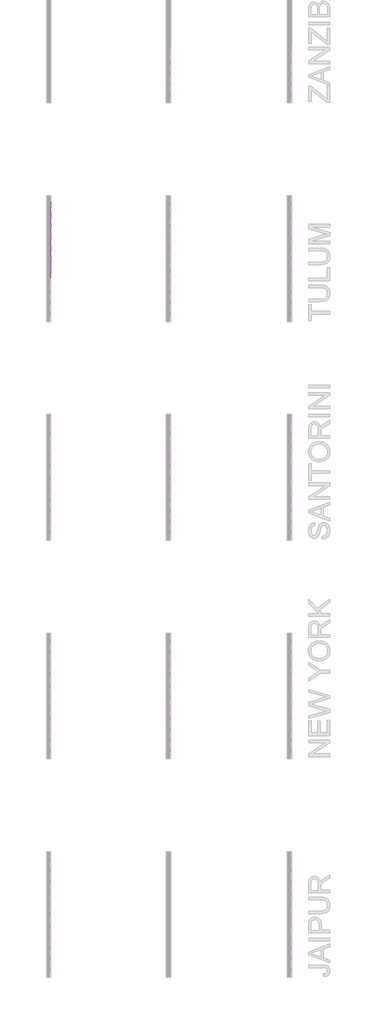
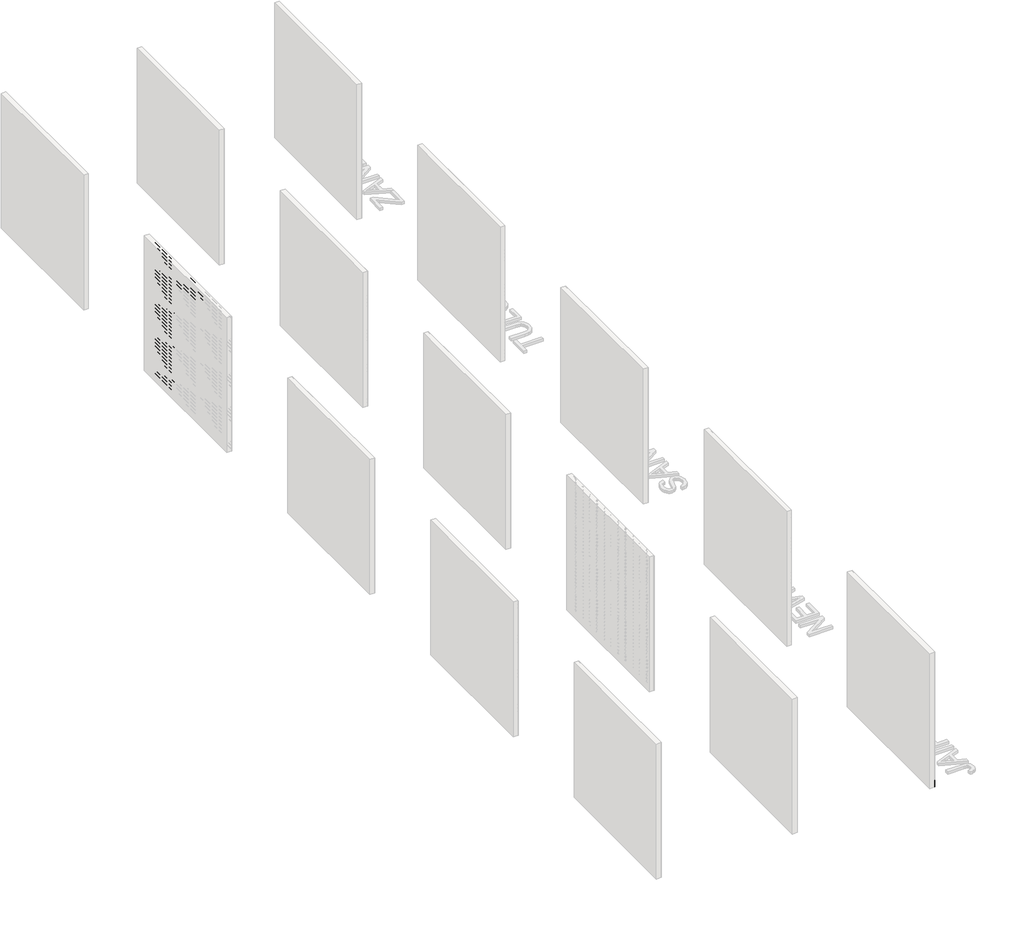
# One storey, part 14 of 45: 147 proxies.
"""IFC4 building model written with IfcOpenShell, lengths in millimetres."""

from ifc_helpers import new_model, si_unit, origin, place, context, project, spatial, transform, mapped, element, save
from components import generic_models_ab0f2c30, generic_models_c1e678a0

model = new_model("IFC4")

# Units and contexts
model_context = context("Model", 3, world=origin())
ifc_project = project(units=[si_unit("LENGTHUNIT", "METRE", prefix="MILLI")], contexts=[model_context])

# Site, building, storey
site = spatial("IfcSite", under=ifc_project)
building = spatial("IfcBuilding", under=site)
storey = spatial("IfcBuildingStorey", under=building, Name="PORTOBELLO - SHOWROOM", Elevation=0.0)

# Proxies
placement = place(None, origin())
generic_models_shape = generic_models_ab0f2c30(model_context)
element("IfcBuildingElementProxy", 1, Name="PBSHOP - HORIZONTES JAIPUR 6,5X23 : JAIPUR", ObjectType="PBSHOP - HORIZONTES JAIPUR 6,5X23 : JAIPUR", at=placement, inside=storey, context=model_context, shape_type="MappedRepresentation", body=[
    mapped(generic_models_shape, transform((69111.8826867, 1103.9760255, 34.5), x_axis=(0.0, 0.0, 1.0), y_axis=(0.0, -1.0, 0.0), z_axis=(1.0, 0.0, 0.0))),
])
element("IfcBuildingElementProxy", 2, Name="PBSHOP - HORIZONTES JAIPUR 6,5X23 : JAIPUR", ObjectType="PBSHOP - HORIZONTES JAIPUR 6,5X23 : JAIPUR", at=placement, inside=storey, context=model_context, shape_type="MappedRepresentation", body=[
    mapped(generic_models_shape, transform((69111.8826867, 1337.9760255, 34.5), x_axis=(0.0, 0.0, 1.0), y_axis=(0.0, -1.0, 0.0), z_axis=(1.0, 0.0, 0.0))),
])
element("IfcBuildingElementProxy", 3, Name="PBSHOP - HORIZONTES JAIPUR 6,5X23 : JAIPUR", ObjectType="PBSHOP - HORIZONTES JAIPUR 6,5X23 : JAIPUR", at=placement, inside=storey, context=model_context, shape_type="MappedRepresentation", body=[
    mapped(generic_models_shape, transform((69111.8826867, 1571.9760255, 34.5), x_axis=(0.0, 0.0, 1.0), y_axis=(0.0, -1.0, 0.0), z_axis=(1.0, 0.0, 0.0))),
])
element("IfcBuildingElementProxy", 4, Name="PBSHOP - HORIZONTES JAIPUR 6,5X23 : JAIPUR", ObjectType="PBSHOP - HORIZONTES JAIPUR 6,5X23 : JAIPUR", at=placement, inside=storey, context=model_context, shape_type="MappedRepresentation", body=[
    mapped(generic_models_shape, transform((69111.8826867, 1805.9760255, 34.5), x_axis=(0.0, 0.0, 1.0), y_axis=(0.0, -1.0, 0.0), z_axis=(1.0, 0.0, 0.0))),
])
element("IfcBuildingElementProxy", 5, Name="PBSHOP - HORIZONTES JAIPUR 6,5X23 : JAIPUR", ObjectType="PBSHOP - HORIZONTES JAIPUR 6,5X23 : JAIPUR", at=placement, inside=storey, context=model_context, shape_type="MappedRepresentation", body=[
    mapped(generic_models_shape, transform((69111.8826867, 1103.9760255, 103.5), x_axis=(0.0, 0.0, 1.0), y_axis=(0.0, -1.0, 0.0), z_axis=(1.0, 0.0, 0.0))),
])
generic_models_2_shape = generic_models_c1e678a0(model_context)
element("IfcBuildingElementProxy", 6, Name="PBSHOP - HORIZONTES TULUM 6,5X23 : TULUM FENDA", ObjectType="PBSHOP - HORIZONTES TULUM 6,5X23 : TULUM FENDA", at=placement, inside=storey, context=model_context, shape_type="MappedRepresentation", body=[
    mapped(generic_models_2_shape, transform((63939.1036979, 17058.0588567, 34.5), x_axis=(0.0, 0.0, 1.0), y_axis=(0.0, -1.0, 0.0), z_axis=(1.0, 0.0, 0.0))),
])
element("IfcBuildingElementProxy", 7, Name="PBSHOP - HORIZONTES TULUM 6,5X23 : TULUM FENDA", ObjectType="PBSHOP - HORIZONTES TULUM 6,5X23 : TULUM FENDA", at=placement, inside=storey, context=model_context, shape_type="MappedRepresentation", body=[
    mapped(generic_models_2_shape, transform((63939.1036979, 17292.0588567, 34.5), x_axis=(0.0, 0.0, 1.0), y_axis=(0.0, -1.0, 0.0), z_axis=(1.0, 0.0, 0.0))),
])
element("IfcBuildingElementProxy", 8, Name="PBSHOP - HORIZONTES TULUM 6,5X23 : TULUM FENDA", ObjectType="PBSHOP - HORIZONTES TULUM 6,5X23 : TULUM FENDA", at=placement, inside=storey, context=model_context, shape_type="MappedRepresentation", body=[
    mapped(generic_models_2_shape, transform((63939.1036979, 17526.0588567, 34.5), x_axis=(0.0, 0.0, 1.0), y_axis=(0.0, -1.0, 0.0), z_axis=(1.0, 0.0, 0.0))),
])
element("IfcBuildingElementProxy", 9, Name="PBSHOP - HORIZONTES TULUM 6,5X23 : TULUM FENDA", ObjectType="PBSHOP - HORIZONTES TULUM 6,5X23 : TULUM FENDA", at=placement, inside=storey, context=model_context, shape_type="MappedRepresentation", body=[
    mapped(generic_models_2_shape, transform((63939.1036979, 17058.0588567, 103.5), x_axis=(0.0, 0.0, 1.0), y_axis=(0.0, -1.0, 0.0), z_axis=(1.0, 0.0, 0.0))),
])
element("IfcBuildingElementProxy", 10, Name="PBSHOP - HORIZONTES TULUM 6,5X23 : TULUM FENDA", ObjectType="PBSHOP - HORIZONTES TULUM 6,5X23 : TULUM FENDA", at=placement, inside=storey, context=model_context, shape_type="MappedRepresentation", body=[
    mapped(generic_models_2_shape, transform((63939.1036979, 17292.0588567, 103.5), x_axis=(0.0, 0.0, 1.0), y_axis=(0.0, -1.0, 0.0), z_axis=(1.0, 0.0, 0.0))),
])
element("IfcBuildingElementProxy", 11, Name="PBSHOP - HORIZONTES TULUM 6,5X23 : TULUM FENDA", ObjectType="PBSHOP - HORIZONTES TULUM 6,5X23 : TULUM FENDA", at=placement, inside=storey, context=model_context, shape_type="MappedRepresentation", body=[
    mapped(generic_models_2_shape, transform((63939.1036979, 17526.0588567, 103.5), x_axis=(0.0, 0.0, 1.0), y_axis=(0.0, -1.0, 0.0), z_axis=(1.0, 0.0, 0.0))),
])
element("IfcBuildingElementProxy", 12, Name="PBSHOP - HORIZONTES TULUM 6,5X23 : TULUM FENDA", ObjectType="PBSHOP - HORIZONTES TULUM 6,5X23 : TULUM FENDA", at=placement, inside=storey, context=model_context, shape_type="MappedRepresentation", body=[
    mapped(generic_models_2_shape, transform((63939.1036979, 17058.0588567, 172.5), x_axis=(0.0, 0.0, 1.0), y_axis=(0.0, -1.0, 0.0), z_axis=(1.0, 0.0, 0.0))),
])
element("IfcBuildingElementProxy", 13, Name="PBSHOP - HORIZONTES TULUM 6,5X23 : TULUM FENDA", ObjectType="PBSHOP - HORIZONTES TULUM 6,5X23 : TULUM FENDA", at=placement, inside=storey, context=model_context, shape_type="MappedRepresentation", body=[
    mapped(generic_models_2_shape, transform((63939.1036979, 17292.0588567, 172.5), x_axis=(0.0, 0.0, 1.0), y_axis=(0.0, -1.0, 0.0), z_axis=(1.0, 0.0, 0.0))),
])
element("IfcBuildingElementProxy", 14, Name="PBSHOP - HORIZONTES TULUM 6,5X23 : TULUM FENDA", ObjectType="PBSHOP - HORIZONTES TULUM 6,5X23 : TULUM FENDA", at=placement, inside=storey, context=model_context, shape_type="MappedRepresentation", body=[
    mapped(generic_models_2_shape, transform((63939.1036979, 17526.0588567, 172.5), x_axis=(0.0, 0.0, 1.0), y_axis=(0.0, -1.0, 0.0), z_axis=(1.0, 0.0, 0.0))),
])
element("IfcBuildingElementProxy", 15, Name="PBSHOP - HORIZONTES TULUM 6,5X23 : TULUM FENDA", ObjectType="PBSHOP - HORIZONTES TULUM 6,5X23 : TULUM FENDA", at=placement, inside=storey, context=model_context, shape_type="MappedRepresentation", body=[
    mapped(generic_models_2_shape, transform((63939.1036979, 17058.0588567, 241.5), x_axis=(0.0, 0.0, 1.0), y_axis=(0.0, -1.0, 0.0), z_axis=(1.0, 0.0, 0.0))),
])
element("IfcBuildingElementProxy", 16, Name="PBSHOP - HORIZONTES TULUM 6,5X23 : TULUM FENDA", ObjectType="PBSHOP - HORIZONTES TULUM 6,5X23 : TULUM FENDA", at=placement, inside=storey, context=model_context, shape_type="MappedRepresentation", body=[
    mapped(generic_models_2_shape, transform((63939.1036979, 17292.0588567, 241.5), x_axis=(0.0, 0.0, 1.0), y_axis=(0.0, -1.0, 0.0), z_axis=(1.0, 0.0, 0.0))),
])
element("IfcBuildingElementProxy", 17, Name="PBSHOP - HORIZONTES TULUM 6,5X23 : TULUM FENDA", ObjectType="PBSHOP - HORIZONTES TULUM 6,5X23 : TULUM FENDA", at=placement, inside=storey, context=model_context, shape_type="MappedRepresentation", body=[
    mapped(generic_models_2_shape, transform((63939.1036979, 17526.0588567, 241.5), x_axis=(0.0, 0.0, 1.0), y_axis=(0.0, -1.0, 0.0), z_axis=(1.0, 0.0, 0.0))),
])
element("IfcBuildingElementProxy", 18, Name="PBSHOP - HORIZONTES TULUM 6,5X23 : TULUM FENDA", ObjectType="PBSHOP - HORIZONTES TULUM 6,5X23 : TULUM FENDA", at=placement, inside=storey, context=model_context, shape_type="MappedRepresentation", body=[
    mapped(generic_models_2_shape, transform((63939.1036979, 17058.0588567, 310.5), x_axis=(0.0, 0.0, 1.0), y_axis=(0.0, -1.0, 0.0), z_axis=(1.0, 0.0, 0.0))),
])
element("IfcBuildingElementProxy", 19, Name="PBSHOP - HORIZONTES TULUM 6,5X23 : TULUM FENDA", ObjectType="PBSHOP - HORIZONTES TULUM 6,5X23 : TULUM FENDA", at=placement, inside=storey, context=model_context, shape_type="MappedRepresentation", body=[
    mapped(generic_models_2_shape, transform((63939.1036979, 17292.0588567, 310.5), x_axis=(0.0, 0.0, 1.0), y_axis=(0.0, -1.0, 0.0), z_axis=(1.0, 0.0, 0.0))),
])
element("IfcBuildingElementProxy", 20, Name="PBSHOP - HORIZONTES TULUM 6,5X23 : TULUM FENDA", ObjectType="PBSHOP - HORIZONTES TULUM 6,5X23 : TULUM FENDA", at=placement, inside=storey, context=model_context, shape_type="MappedRepresentation", body=[
    mapped(generic_models_2_shape, transform((63939.1036979, 17526.0588567, 310.5), x_axis=(0.0, 0.0, 1.0), y_axis=(0.0, -1.0, 0.0), z_axis=(1.0, 0.0, 0.0))),
])
element("IfcBuildingElementProxy", 21, Name="PBSHOP - HORIZONTES TULUM 6,5X23 : TULUM FENDA", ObjectType="PBSHOP - HORIZONTES TULUM 6,5X23 : TULUM FENDA", at=placement, inside=storey, context=model_context, shape_type="MappedRepresentation", body=[
    mapped(generic_models_2_shape, transform((63939.1036979, 17058.0588567, 379.5), x_axis=(0.0, 0.0, 1.0), y_axis=(0.0, -1.0, 0.0), z_axis=(1.0, 0.0, 0.0))),
])
element("IfcBuildingElementProxy", 22, Name="PBSHOP - HORIZONTES TULUM 6,5X23 : TULUM FENDA", ObjectType="PBSHOP - HORIZONTES TULUM 6,5X23 : TULUM FENDA", at=placement, inside=storey, context=model_context, shape_type="MappedRepresentation", body=[
    mapped(generic_models_2_shape, transform((63939.1036979, 17292.0588567, 379.5), x_axis=(0.0, 0.0, 1.0), y_axis=(0.0, -1.0, 0.0), z_axis=(1.0, 0.0, 0.0))),
])
element("IfcBuildingElementProxy", 23, Name="PBSHOP - HORIZONTES TULUM 6,5X23 : TULUM FENDA", ObjectType="PBSHOP - HORIZONTES TULUM 6,5X23 : TULUM FENDA", at=placement, inside=storey, context=model_context, shape_type="MappedRepresentation", body=[
    mapped(generic_models_2_shape, transform((63939.1036979, 17526.0588567, 379.5), x_axis=(0.0, 0.0, 1.0), y_axis=(0.0, -1.0, 0.0), z_axis=(1.0, 0.0, 0.0))),
])
element("IfcBuildingElementProxy", 24, Name="PBSHOP - HORIZONTES TULUM 6,5X23 : TULUM FENDA", ObjectType="PBSHOP - HORIZONTES TULUM 6,5X23 : TULUM FENDA", at=placement, inside=storey, context=model_context, shape_type="MappedRepresentation", body=[
    mapped(generic_models_2_shape, transform((63939.1036979, 17058.0588567, 448.5), x_axis=(0.0, 0.0, 1.0), y_axis=(0.0, -1.0, 0.0), z_axis=(1.0, 0.0, 0.0))),
])
element("IfcBuildingElementProxy", 25, Name="PBSHOP - HORIZONTES TULUM 6,5X23 : TULUM FENDA", ObjectType="PBSHOP - HORIZONTES TULUM 6,5X23 : TULUM FENDA", at=placement, inside=storey, context=model_context, shape_type="MappedRepresentation", body=[
    mapped(generic_models_2_shape, transform((63939.1036979, 17292.0588567, 448.5), x_axis=(0.0, 0.0, 1.0), y_axis=(0.0, -1.0, 0.0), z_axis=(1.0, 0.0, 0.0))),
])
element("IfcBuildingElementProxy", 26, Name="PBSHOP - HORIZONTES TULUM 6,5X23 : TULUM FENDA", ObjectType="PBSHOP - HORIZONTES TULUM 6,5X23 : TULUM FENDA", at=placement, inside=storey, context=model_context, shape_type="MappedRepresentation", body=[
    mapped(generic_models_2_shape, transform((63939.1036979, 17526.0588567, 448.5), x_axis=(0.0, 0.0, 1.0), y_axis=(0.0, -1.0, 0.0), z_axis=(1.0, 0.0, 0.0))),
])
element("IfcBuildingElementProxy", 27, Name="PBSHOP - HORIZONTES TULUM 6,5X23 : TULUM FENDA", ObjectType="PBSHOP - HORIZONTES TULUM 6,5X23 : TULUM FENDA", at=placement, inside=storey, context=model_context, shape_type="MappedRepresentation", body=[
    mapped(generic_models_2_shape, transform((63939.1036979, 17058.0588567, 517.5), x_axis=(0.0, 0.0, 1.0), y_axis=(0.0, -1.0, 0.0), z_axis=(1.0, 0.0, 0.0))),
])
element("IfcBuildingElementProxy", 28, Name="PBSHOP - HORIZONTES TULUM 6,5X23 : TULUM FENDA", ObjectType="PBSHOP - HORIZONTES TULUM 6,5X23 : TULUM FENDA", at=placement, inside=storey, context=model_context, shape_type="MappedRepresentation", body=[
    mapped(generic_models_2_shape, transform((63939.1036979, 17292.0588567, 517.5), x_axis=(0.0, 0.0, 1.0), y_axis=(0.0, -1.0, 0.0), z_axis=(1.0, 0.0, 0.0))),
])
element("IfcBuildingElementProxy", 29, Name="PBSHOP - HORIZONTES TULUM 6,5X23 : TULUM FENDA", ObjectType="PBSHOP - HORIZONTES TULUM 6,5X23 : TULUM FENDA", at=placement, inside=storey, context=model_context, shape_type="MappedRepresentation", body=[
    mapped(generic_models_2_shape, transform((63939.1036979, 17526.0588567, 517.5), x_axis=(0.0, 0.0, 1.0), y_axis=(0.0, -1.0, 0.0), z_axis=(1.0, 0.0, 0.0))),
])
element("IfcBuildingElementProxy", 30, Name="PBSHOP - HORIZONTES TULUM 6,5X23 : TULUM FENDA", ObjectType="PBSHOP - HORIZONTES TULUM 6,5X23 : TULUM FENDA", at=placement, inside=storey, context=model_context, shape_type="MappedRepresentation", body=[
    mapped(generic_models_2_shape, transform((63939.1036979, 17058.0588567, 586.5), x_axis=(0.0, 0.0, 1.0), y_axis=(0.0, -1.0, 0.0), z_axis=(1.0, 0.0, 0.0))),
])
element("IfcBuildingElementProxy", 31, Name="PBSHOP - HORIZONTES TULUM 6,5X23 : TULUM FENDA", ObjectType="PBSHOP - HORIZONTES TULUM 6,5X23 : TULUM FENDA", at=placement, inside=storey, context=model_context, shape_type="MappedRepresentation", body=[
    mapped(generic_models_2_shape, transform((63939.1036979, 17292.0588567, 586.5), x_axis=(0.0, 0.0, 1.0), y_axis=(0.0, -1.0, 0.0), z_axis=(1.0, 0.0, 0.0))),
])
element("IfcBuildingElementProxy", 32, Name="PBSHOP - HORIZONTES TULUM 6,5X23 : TULUM FENDA", ObjectType="PBSHOP - HORIZONTES TULUM 6,5X23 : TULUM FENDA", at=placement, inside=storey, context=model_context, shape_type="MappedRepresentation", body=[
    mapped(generic_models_2_shape, transform((63939.1036979, 17526.0588567, 586.5), x_axis=(0.0, 0.0, 1.0), y_axis=(0.0, -1.0, 0.0), z_axis=(1.0, 0.0, 0.0))),
])
element("IfcBuildingElementProxy", 33, Name="PBSHOP - HORIZONTES TULUM 6,5X23 : TULUM FENDA", ObjectType="PBSHOP - HORIZONTES TULUM 6,5X23 : TULUM FENDA", at=placement, inside=storey, context=model_context, shape_type="MappedRepresentation", body=[
    mapped(generic_models_2_shape, transform((63939.1036979, 17058.0588567, 655.5), x_axis=(0.0, 0.0, 1.0), y_axis=(0.0, -1.0, 0.0), z_axis=(1.0, 0.0, 0.0))),
])
element("IfcBuildingElementProxy", 34, Name="PBSHOP - HORIZONTES TULUM 6,5X23 : TULUM FENDA", ObjectType="PBSHOP - HORIZONTES TULUM 6,5X23 : TULUM FENDA", at=placement, inside=storey, context=model_context, shape_type="MappedRepresentation", body=[
    mapped(generic_models_2_shape, transform((63939.1036979, 17292.0588567, 655.5), x_axis=(0.0, 0.0, 1.0), y_axis=(0.0, -1.0, 0.0), z_axis=(1.0, 0.0, 0.0))),
])
element("IfcBuildingElementProxy", 35, Name="PBSHOP - HORIZONTES TULUM 6,5X23 : TULUM FENDA", ObjectType="PBSHOP - HORIZONTES TULUM 6,5X23 : TULUM FENDA", at=placement, inside=storey, context=model_context, shape_type="MappedRepresentation", body=[
    mapped(generic_models_2_shape, transform((63939.1036979, 17526.0588567, 655.5), x_axis=(0.0, 0.0, 1.0), y_axis=(0.0, -1.0, 0.0), z_axis=(1.0, 0.0, 0.0))),
])
element("IfcBuildingElementProxy", 36, Name="PBSHOP - HORIZONTES TULUM 6,5X23 : TULUM FENDA", ObjectType="PBSHOP - HORIZONTES TULUM 6,5X23 : TULUM FENDA", at=placement, inside=storey, context=model_context, shape_type="MappedRepresentation", body=[
    mapped(generic_models_2_shape, transform((63939.1036979, 17058.0588567, 724.5), x_axis=(0.0, 0.0, 1.0), y_axis=(0.0, -1.0, 0.0), z_axis=(1.0, 0.0, 0.0))),
])
element("IfcBuildingElementProxy", 37, Name="PBSHOP - HORIZONTES TULUM 6,5X23 : TULUM FENDA", ObjectType="PBSHOP - HORIZONTES TULUM 6,5X23 : TULUM FENDA", at=placement, inside=storey, context=model_context, shape_type="MappedRepresentation", body=[
    mapped(generic_models_2_shape, transform((63939.1036979, 17292.0588567, 724.5), x_axis=(0.0, 0.0, 1.0), y_axis=(0.0, -1.0, 0.0), z_axis=(1.0, 0.0, 0.0))),
])
element("IfcBuildingElementProxy", 38, Name="PBSHOP - HORIZONTES TULUM 6,5X23 : TULUM FENDA", ObjectType="PBSHOP - HORIZONTES TULUM 6,5X23 : TULUM FENDA", at=placement, inside=storey, context=model_context, shape_type="MappedRepresentation", body=[
    mapped(generic_models_2_shape, transform((63939.1036979, 17526.0588567, 724.5), x_axis=(0.0, 0.0, 1.0), y_axis=(0.0, -1.0, 0.0), z_axis=(1.0, 0.0, 0.0))),
])
element("IfcBuildingElementProxy", 39, Name="PBSHOP - HORIZONTES TULUM 6,5X23 : TULUM FENDA", ObjectType="PBSHOP - HORIZONTES TULUM 6,5X23 : TULUM FENDA", at=placement, inside=storey, context=model_context, shape_type="MappedRepresentation", body=[
    mapped(generic_models_2_shape, transform((63939.1036979, 17058.0588567, 793.5), x_axis=(0.0, 0.0, 1.0), y_axis=(0.0, -1.0, 0.0), z_axis=(1.0, 0.0, 0.0))),
])
element("IfcBuildingElementProxy", 40, Name="PBSHOP - HORIZONTES TULUM 6,5X23 : TULUM FENDA", ObjectType="PBSHOP - HORIZONTES TULUM 6,5X23 : TULUM FENDA", at=placement, inside=storey, context=model_context, shape_type="MappedRepresentation", body=[
    mapped(generic_models_2_shape, transform((63939.1036979, 17292.0588567, 793.5), x_axis=(0.0, 0.0, 1.0), y_axis=(0.0, -1.0, 0.0), z_axis=(1.0, 0.0, 0.0))),
])
element("IfcBuildingElementProxy", 41, Name="PBSHOP - HORIZONTES TULUM 6,5X23 : TULUM FENDA", ObjectType="PBSHOP - HORIZONTES TULUM 6,5X23 : TULUM FENDA", at=placement, inside=storey, context=model_context, shape_type="MappedRepresentation", body=[
    mapped(generic_models_2_shape, transform((63939.1036979, 17526.0588567, 793.5), x_axis=(0.0, 0.0, 1.0), y_axis=(0.0, -1.0, 0.0), z_axis=(1.0, 0.0, 0.0))),
])
element("IfcBuildingElementProxy", 42, Name="PBSHOP - HORIZONTES TULUM 6,5X23 : TULUM FENDA", ObjectType="PBSHOP - HORIZONTES TULUM 6,5X23 : TULUM FENDA", at=placement, inside=storey, context=model_context, shape_type="MappedRepresentation", body=[
    mapped(generic_models_2_shape, transform((63939.1036979, 17058.0588567, 862.5), x_axis=(0.0, 0.0, 1.0), y_axis=(0.0, -1.0, 0.0), z_axis=(1.0, 0.0, 0.0))),
])
element("IfcBuildingElementProxy", 43, Name="PBSHOP - HORIZONTES TULUM 6,5X23 : TULUM FENDA", ObjectType="PBSHOP - HORIZONTES TULUM 6,5X23 : TULUM FENDA", at=placement, inside=storey, context=model_context, shape_type="MappedRepresentation", body=[
    mapped(generic_models_2_shape, transform((63939.1036979, 17292.0588567, 862.5), x_axis=(0.0, 0.0, 1.0), y_axis=(0.0, -1.0, 0.0), z_axis=(1.0, 0.0, 0.0))),
])
element("IfcBuildingElementProxy", 44, Name="PBSHOP - HORIZONTES TULUM 6,5X23 : TULUM FENDA", ObjectType="PBSHOP - HORIZONTES TULUM 6,5X23 : TULUM FENDA", at=placement, inside=storey, context=model_context, shape_type="MappedRepresentation", body=[
    mapped(generic_models_2_shape, transform((63939.1036979, 17526.0588567, 862.5), x_axis=(0.0, 0.0, 1.0), y_axis=(0.0, -1.0, 0.0), z_axis=(1.0, 0.0, 0.0))),
])
element("IfcBuildingElementProxy", 45, Name="PBSHOP - HORIZONTES TULUM 6,5X23 : TULUM FENDA", ObjectType="PBSHOP - HORIZONTES TULUM 6,5X23 : TULUM FENDA", at=placement, inside=storey, context=model_context, shape_type="MappedRepresentation", body=[
    mapped(generic_models_2_shape, transform((63939.1036979, 17058.0588567, 931.5), x_axis=(0.0, 0.0, 1.0), y_axis=(0.0, -1.0, 0.0), z_axis=(1.0, 0.0, 0.0))),
])
element("IfcBuildingElementProxy", 46, Name="PBSHOP - HORIZONTES TULUM 6,5X23 : TULUM FENDA", ObjectType="PBSHOP - HORIZONTES TULUM 6,5X23 : TULUM FENDA", at=placement, inside=storey, context=model_context, shape_type="MappedRepresentation", body=[
    mapped(generic_models_2_shape, transform((63939.1036979, 17292.0588567, 931.5), x_axis=(0.0, 0.0, 1.0), y_axis=(0.0, -1.0, 0.0), z_axis=(1.0, 0.0, 0.0))),
])
element("IfcBuildingElementProxy", 47, Name="PBSHOP - HORIZONTES TULUM 6,5X23 : TULUM FENDA", ObjectType="PBSHOP - HORIZONTES TULUM 6,5X23 : TULUM FENDA", at=placement, inside=storey, context=model_context, shape_type="MappedRepresentation", body=[
    mapped(generic_models_2_shape, transform((63939.1036979, 17526.0588567, 931.5), x_axis=(0.0, 0.0, 1.0), y_axis=(0.0, -1.0, 0.0), z_axis=(1.0, 0.0, 0.0))),
])
element("IfcBuildingElementProxy", 48, Name="PBSHOP - HORIZONTES TULUM 6,5X23 : TULUM FENDA", ObjectType="PBSHOP - HORIZONTES TULUM 6,5X23 : TULUM FENDA", at=placement, inside=storey, context=model_context, shape_type="MappedRepresentation", body=[
    mapped(generic_models_2_shape, transform((63939.1036979, 17058.0588567, 1000.5), x_axis=(0.0, 0.0, 1.0), y_axis=(0.0, -1.0, 0.0), z_axis=(1.0, 0.0, 0.0))),
])
element("IfcBuildingElementProxy", 49, Name="PBSHOP - HORIZONTES TULUM 6,5X23 : TULUM FENDA", ObjectType="PBSHOP - HORIZONTES TULUM 6,5X23 : TULUM FENDA", at=placement, inside=storey, context=model_context, shape_type="MappedRepresentation", body=[
    mapped(generic_models_2_shape, transform((63939.1036979, 17292.0588567, 1000.5), x_axis=(0.0, 0.0, 1.0), y_axis=(0.0, -1.0, 0.0), z_axis=(1.0, 0.0, 0.0))),
])
element("IfcBuildingElementProxy", 50, Name="PBSHOP - HORIZONTES TULUM 6,5X23 : TULUM FENDA", ObjectType="PBSHOP - HORIZONTES TULUM 6,5X23 : TULUM FENDA", at=placement, inside=storey, context=model_context, shape_type="MappedRepresentation", body=[
    mapped(generic_models_2_shape, transform((63939.1036979, 17526.0588567, 1000.5), x_axis=(0.0, 0.0, 1.0), y_axis=(0.0, -1.0, 0.0), z_axis=(1.0, 0.0, 0.0))),
])
element("IfcBuildingElementProxy", 51, Name="PBSHOP - HORIZONTES TULUM 6,5X23 : TULUM FENDA", ObjectType="PBSHOP - HORIZONTES TULUM 6,5X23 : TULUM FENDA", at=placement, inside=storey, context=model_context, shape_type="MappedRepresentation", body=[
    mapped(generic_models_2_shape, transform((63939.1036979, 17058.0588567, 1069.5), x_axis=(0.0, 0.0, 1.0), y_axis=(0.0, -1.0, 0.0), z_axis=(1.0, 0.0, 0.0))),
])
element("IfcBuildingElementProxy", 52, Name="PBSHOP - HORIZONTES TULUM 6,5X23 : TULUM FENDA", ObjectType="PBSHOP - HORIZONTES TULUM 6,5X23 : TULUM FENDA", at=placement, inside=storey, context=model_context, shape_type="MappedRepresentation", body=[
    mapped(generic_models_2_shape, transform((63939.1036979, 17292.0588567, 1069.5), x_axis=(0.0, 0.0, 1.0), y_axis=(0.0, -1.0, 0.0), z_axis=(1.0, 0.0, 0.0))),
])
element("IfcBuildingElementProxy", 53, Name="PBSHOP - HORIZONTES TULUM 6,5X23 : TULUM FENDA", ObjectType="PBSHOP - HORIZONTES TULUM 6,5X23 : TULUM FENDA", at=placement, inside=storey, context=model_context, shape_type="MappedRepresentation", body=[
    mapped(generic_models_2_shape, transform((63939.1036979, 17526.0588567, 1069.5), x_axis=(0.0, 0.0, 1.0), y_axis=(0.0, -1.0, 0.0), z_axis=(1.0, 0.0, 0.0))),
])
element("IfcBuildingElementProxy", 54, Name="PBSHOP - HORIZONTES TULUM 6,5X23 : TULUM FENDA", ObjectType="PBSHOP - HORIZONTES TULUM 6,5X23 : TULUM FENDA", at=placement, inside=storey, context=model_context, shape_type="MappedRepresentation", body=[
    mapped(generic_models_2_shape, transform((63939.1036979, 17058.0588567, 1138.5), x_axis=(0.0, 0.0, 1.0), y_axis=(0.0, -1.0, 0.0), z_axis=(1.0, 0.0, 0.0))),
])
element("IfcBuildingElementProxy", 55, Name="PBSHOP - HORIZONTES TULUM 6,5X23 : TULUM FENDA", ObjectType="PBSHOP - HORIZONTES TULUM 6,5X23 : TULUM FENDA", at=placement, inside=storey, context=model_context, shape_type="MappedRepresentation", body=[
    mapped(generic_models_2_shape, transform((63939.1036979, 17292.0588567, 1138.5), x_axis=(0.0, 0.0, 1.0), y_axis=(0.0, -1.0, 0.0), z_axis=(1.0, 0.0, 0.0))),
])
element("IfcBuildingElementProxy", 56, Name="PBSHOP - HORIZONTES TULUM 6,5X23 : TULUM FENDA", ObjectType="PBSHOP - HORIZONTES TULUM 6,5X23 : TULUM FENDA", at=placement, inside=storey, context=model_context, shape_type="MappedRepresentation", body=[
    mapped(generic_models_2_shape, transform((63939.1036979, 17526.0588567, 1138.5), x_axis=(0.0, 0.0, 1.0), y_axis=(0.0, -1.0, 0.0), z_axis=(1.0, 0.0, 0.0))),
])
element("IfcBuildingElementProxy", 57, Name="PBSHOP - HORIZONTES TULUM 6,5X23 : TULUM FENDA", ObjectType="PBSHOP - HORIZONTES TULUM 6,5X23 : TULUM FENDA", at=placement, inside=storey, context=model_context, shape_type="MappedRepresentation", body=[
    mapped(generic_models_2_shape, transform((63939.1036979, 17058.0588567, 1207.5), x_axis=(0.0, 0.0, 1.0), y_axis=(0.0, -1.0, 0.0), z_axis=(1.0, 0.0, 0.0))),
])
element("IfcBuildingElementProxy", 58, Name="PBSHOP - HORIZONTES TULUM 6,5X23 : TULUM FENDA", ObjectType="PBSHOP - HORIZONTES TULUM 6,5X23 : TULUM FENDA", at=placement, inside=storey, context=model_context, shape_type="MappedRepresentation", body=[
    mapped(generic_models_2_shape, transform((63939.1036979, 17292.0588567, 1207.5), x_axis=(0.0, 0.0, 1.0), y_axis=(0.0, -1.0, 0.0), z_axis=(1.0, 0.0, 0.0))),
])
element("IfcBuildingElementProxy", 59, Name="PBSHOP - HORIZONTES TULUM 6,5X23 : TULUM FENDA", ObjectType="PBSHOP - HORIZONTES TULUM 6,5X23 : TULUM FENDA", at=placement, inside=storey, context=model_context, shape_type="MappedRepresentation", body=[
    mapped(generic_models_2_shape, transform((63939.1036979, 17526.0588567, 1207.5), x_axis=(0.0, 0.0, 1.0), y_axis=(0.0, -1.0, 0.0), z_axis=(1.0, 0.0, 0.0))),
])
element("IfcBuildingElementProxy", 60, Name="PBSHOP - HORIZONTES TULUM 6,5X23 : TULUM FENDA", ObjectType="PBSHOP - HORIZONTES TULUM 6,5X23 : TULUM FENDA", at=placement, inside=storey, context=model_context, shape_type="MappedRepresentation", body=[
    mapped(generic_models_2_shape, transform((63939.1036979, 17058.0588567, 1276.5), x_axis=(0.0, 0.0, 1.0), y_axis=(0.0, -1.0, 0.0), z_axis=(1.0, 0.0, 0.0))),
])
element("IfcBuildingElementProxy", 61, Name="PBSHOP - HORIZONTES TULUM 6,5X23 : TULUM FENDA", ObjectType="PBSHOP - HORIZONTES TULUM 6,5X23 : TULUM FENDA", at=placement, inside=storey, context=model_context, shape_type="MappedRepresentation", body=[
    mapped(generic_models_2_shape, transform((63939.1036979, 17292.0588567, 1276.5), x_axis=(0.0, 0.0, 1.0), y_axis=(0.0, -1.0, 0.0), z_axis=(1.0, 0.0, 0.0))),
])
element("IfcBuildingElementProxy", 62, Name="PBSHOP - HORIZONTES TULUM 6,5X23 : TULUM FENDA", ObjectType="PBSHOP - HORIZONTES TULUM 6,5X23 : TULUM FENDA", at=placement, inside=storey, context=model_context, shape_type="MappedRepresentation", body=[
    mapped(generic_models_2_shape, transform((63939.1036979, 17526.0588567, 1276.5), x_axis=(0.0, 0.0, 1.0), y_axis=(0.0, -1.0, 0.0), z_axis=(1.0, 0.0, 0.0))),
])
element("IfcBuildingElementProxy", 63, Name="PBSHOP - HORIZONTES TULUM 6,5X23 : TULUM FENDA", ObjectType="PBSHOP - HORIZONTES TULUM 6,5X23 : TULUM FENDA", at=placement, inside=storey, context=model_context, shape_type="MappedRepresentation", body=[
    mapped(generic_models_2_shape, transform((63939.1036979, 17058.0588567, 1345.5), x_axis=(0.0, 0.0, 1.0), y_axis=(0.0, -1.0, 0.0), z_axis=(1.0, 0.0, 0.0))),
])
element("IfcBuildingElementProxy", 64, Name="PBSHOP - HORIZONTES TULUM 6,5X23 : TULUM FENDA", ObjectType="PBSHOP - HORIZONTES TULUM 6,5X23 : TULUM FENDA", at=placement, inside=storey, context=model_context, shape_type="MappedRepresentation", body=[
    mapped(generic_models_2_shape, transform((63939.1036979, 17292.0588567, 1345.5), x_axis=(0.0, 0.0, 1.0), y_axis=(0.0, -1.0, 0.0), z_axis=(1.0, 0.0, 0.0))),
])
element("IfcBuildingElementProxy", 65, Name="PBSHOP - HORIZONTES TULUM 6,5X23 : TULUM FENDA", ObjectType="PBSHOP - HORIZONTES TULUM 6,5X23 : TULUM FENDA", at=placement, inside=storey, context=model_context, shape_type="MappedRepresentation", body=[
    mapped(generic_models_2_shape, transform((63939.1036979, 17526.0588567, 1345.5), x_axis=(0.0, 0.0, 1.0), y_axis=(0.0, -1.0, 0.0), z_axis=(1.0, 0.0, 0.0))),
])
element("IfcBuildingElementProxy", 66, Name="PBSHOP - HORIZONTES TULUM 6,5X23 : TULUM FENDA", ObjectType="PBSHOP - HORIZONTES TULUM 6,5X23 : TULUM FENDA", at=placement, inside=storey, context=model_context, shape_type="MappedRepresentation", body=[
    mapped(generic_models_2_shape, transform((63939.1036979, 17058.0588567, 1414.5), x_axis=(0.0, 0.0, 1.0), y_axis=(0.0, -1.0, 0.0), z_axis=(1.0, 0.0, 0.0))),
])
element("IfcBuildingElementProxy", 67, Name="PBSHOP - HORIZONTES TULUM 6,5X23 : TULUM FENDA", ObjectType="PBSHOP - HORIZONTES TULUM 6,5X23 : TULUM FENDA", at=placement, inside=storey, context=model_context, shape_type="MappedRepresentation", body=[
    mapped(generic_models_2_shape, transform((63939.1036979, 17292.0588567, 1414.5), x_axis=(0.0, 0.0, 1.0), y_axis=(0.0, -1.0, 0.0), z_axis=(1.0, 0.0, 0.0))),
])
element("IfcBuildingElementProxy", 68, Name="PBSHOP - HORIZONTES TULUM 6,5X23 : TULUM FENDA", ObjectType="PBSHOP - HORIZONTES TULUM 6,5X23 : TULUM FENDA", at=placement, inside=storey, context=model_context, shape_type="MappedRepresentation", body=[
    mapped(generic_models_2_shape, transform((63939.1036979, 17526.0588567, 1414.5), x_axis=(0.0, 0.0, 1.0), y_axis=(0.0, -1.0, 0.0), z_axis=(1.0, 0.0, 0.0))),
])
element("IfcBuildingElementProxy", 69, Name="PBSHOP - HORIZONTES TULUM 6,5X23 : TULUM FENDA", ObjectType="PBSHOP - HORIZONTES TULUM 6,5X23 : TULUM FENDA", at=placement, inside=storey, context=model_context, shape_type="MappedRepresentation", body=[
    mapped(generic_models_2_shape, transform((63939.1036979, 17058.0588567, 1483.5), x_axis=(0.0, 0.0, 1.0), y_axis=(0.0, -1.0, 0.0), z_axis=(1.0, 0.0, 0.0))),
])
element("IfcBuildingElementProxy", 70, Name="PBSHOP - HORIZONTES TULUM 6,5X23 : TULUM FENDA", ObjectType="PBSHOP - HORIZONTES TULUM 6,5X23 : TULUM FENDA", at=placement, inside=storey, context=model_context, shape_type="MappedRepresentation", body=[
    mapped(generic_models_2_shape, transform((63939.1036979, 17292.0588567, 1483.5), x_axis=(0.0, 0.0, 1.0), y_axis=(0.0, -1.0, 0.0), z_axis=(1.0, 0.0, 0.0))),
])
element("IfcBuildingElementProxy", 71, Name="PBSHOP - HORIZONTES TULUM 6,5X23 : TULUM FENDA", ObjectType="PBSHOP - HORIZONTES TULUM 6,5X23 : TULUM FENDA", at=placement, inside=storey, context=model_context, shape_type="MappedRepresentation", body=[
    mapped(generic_models_2_shape, transform((63939.1036979, 17526.0588567, 1483.5), x_axis=(0.0, 0.0, 1.0), y_axis=(0.0, -1.0, 0.0), z_axis=(1.0, 0.0, 0.0))),
])
element("IfcBuildingElementProxy", 72, Name="PBSHOP - HORIZONTES TULUM 6,5X23 : TULUM FENDA", ObjectType="PBSHOP - HORIZONTES TULUM 6,5X23 : TULUM FENDA", at=placement, inside=storey, context=model_context, shape_type="MappedRepresentation", body=[
    mapped(generic_models_2_shape, transform((63939.1036979, 17058.0588567, 1552.5), x_axis=(0.0, 0.0, 1.0), y_axis=(0.0, -1.0, 0.0), z_axis=(1.0, 0.0, 0.0))),
])
element("IfcBuildingElementProxy", 73, Name="PBSHOP - HORIZONTES TULUM 6,5X23 : TULUM FENDA", ObjectType="PBSHOP - HORIZONTES TULUM 6,5X23 : TULUM FENDA", at=placement, inside=storey, context=model_context, shape_type="MappedRepresentation", body=[
    mapped(generic_models_2_shape, transform((63939.1036979, 17292.0588567, 1552.5), x_axis=(0.0, 0.0, 1.0), y_axis=(0.0, -1.0, 0.0), z_axis=(1.0, 0.0, 0.0))),
])
element("IfcBuildingElementProxy", 74, Name="PBSHOP - HORIZONTES TULUM 6,5X23 : TULUM FENDA", ObjectType="PBSHOP - HORIZONTES TULUM 6,5X23 : TULUM FENDA", at=placement, inside=storey, context=model_context, shape_type="MappedRepresentation", body=[
    mapped(generic_models_2_shape, transform((63939.1036979, 17526.0588567, 1552.5), x_axis=(0.0, 0.0, 1.0), y_axis=(0.0, -1.0, 0.0), z_axis=(1.0, 0.0, 0.0))),
])
element("IfcBuildingElementProxy", 75, Name="PBSHOP - HORIZONTES TULUM 6,5X23 : TULUM FENDA", ObjectType="PBSHOP - HORIZONTES TULUM 6,5X23 : TULUM FENDA", at=placement, inside=storey, context=model_context, shape_type="MappedRepresentation", body=[
    mapped(generic_models_2_shape, transform((63939.1036979, 17058.0588567, 1621.5), x_axis=(0.0, 0.0, 1.0), y_axis=(0.0, -1.0, 0.0), z_axis=(1.0, 0.0, 0.0))),
])
element("IfcBuildingElementProxy", 76, Name="PBSHOP - HORIZONTES TULUM 6,5X23 : TULUM FENDA", ObjectType="PBSHOP - HORIZONTES TULUM 6,5X23 : TULUM FENDA", at=placement, inside=storey, context=model_context, shape_type="MappedRepresentation", body=[
    mapped(generic_models_2_shape, transform((63939.1036979, 17292.0588567, 1621.5), x_axis=(0.0, 0.0, 1.0), y_axis=(0.0, -1.0, 0.0), z_axis=(1.0, 0.0, 0.0))),
])
element("IfcBuildingElementProxy", 77, Name="PBSHOP - HORIZONTES TULUM 6,5X23 : TULUM FENDA", ObjectType="PBSHOP - HORIZONTES TULUM 6,5X23 : TULUM FENDA", at=placement, inside=storey, context=model_context, shape_type="MappedRepresentation", body=[
    mapped(generic_models_2_shape, transform((63939.1036979, 17526.0588567, 1621.5), x_axis=(0.0, 0.0, 1.0), y_axis=(0.0, -1.0, 0.0), z_axis=(1.0, 0.0, 0.0))),
])
element("IfcBuildingElementProxy", 78, Name="PBSHOP - HORIZONTES TULUM 6,5X23 : TULUM FENDA", ObjectType="PBSHOP - HORIZONTES TULUM 6,5X23 : TULUM FENDA", at=placement, inside=storey, context=model_context, shape_type="MappedRepresentation", body=[
    mapped(generic_models_2_shape, transform((63939.1036979, 17058.0588567, 1690.5), x_axis=(0.0, 0.0, 1.0), y_axis=(0.0, -1.0, 0.0), z_axis=(1.0, 0.0, 0.0))),
])
element("IfcBuildingElementProxy", 79, Name="PBSHOP - HORIZONTES TULUM 6,5X23 : TULUM FENDA", ObjectType="PBSHOP - HORIZONTES TULUM 6,5X23 : TULUM FENDA", at=placement, inside=storey, context=model_context, shape_type="MappedRepresentation", body=[
    mapped(generic_models_2_shape, transform((63939.1036979, 17292.0588567, 1690.5), x_axis=(0.0, 0.0, 1.0), y_axis=(0.0, -1.0, 0.0), z_axis=(1.0, 0.0, 0.0))),
])
element("IfcBuildingElementProxy", 80, Name="PBSHOP - HORIZONTES TULUM 6,5X23 : TULUM FENDA", ObjectType="PBSHOP - HORIZONTES TULUM 6,5X23 : TULUM FENDA", at=placement, inside=storey, context=model_context, shape_type="MappedRepresentation", body=[
    mapped(generic_models_2_shape, transform((63939.1036979, 17526.0588567, 1690.5), x_axis=(0.0, 0.0, 1.0), y_axis=(0.0, -1.0, 0.0), z_axis=(1.0, 0.0, 0.0))),
])
element("IfcBuildingElementProxy", 81, Name="PBSHOP - HORIZONTES TULUM 6,5X23 : TULUM FENDA", ObjectType="PBSHOP - HORIZONTES TULUM 6,5X23 : TULUM FENDA", at=placement, inside=storey, context=model_context, shape_type="MappedRepresentation", body=[
    mapped(generic_models_2_shape, transform((63939.1036979, 17058.0588567, 1759.5), x_axis=(0.0, 0.0, 1.0), y_axis=(0.0, -1.0, 0.0), z_axis=(1.0, 0.0, 0.0))),
])
element("IfcBuildingElementProxy", 82, Name="PBSHOP - HORIZONTES TULUM 6,5X23 : TULUM FENDA", ObjectType="PBSHOP - HORIZONTES TULUM 6,5X23 : TULUM FENDA", at=placement, inside=storey, context=model_context, shape_type="MappedRepresentation", body=[
    mapped(generic_models_2_shape, transform((63939.1036979, 17292.0588567, 1759.5), x_axis=(0.0, 0.0, 1.0), y_axis=(0.0, -1.0, 0.0), z_axis=(1.0, 0.0, 0.0))),
])
element("IfcBuildingElementProxy", 83, Name="PBSHOP - HORIZONTES TULUM 6,5X23 : TULUM FENDA", ObjectType="PBSHOP - HORIZONTES TULUM 6,5X23 : TULUM FENDA", at=placement, inside=storey, context=model_context, shape_type="MappedRepresentation", body=[
    mapped(generic_models_2_shape, transform((63939.1036979, 17526.0588567, 1759.5), x_axis=(0.0, 0.0, 1.0), y_axis=(0.0, -1.0, 0.0), z_axis=(1.0, 0.0, 0.0))),
])
element("IfcBuildingElementProxy", 84, Name="PBSHOP - HORIZONTES TULUM 6,5X23 : TULUM FENDA", ObjectType="PBSHOP - HORIZONTES TULUM 6,5X23 : TULUM FENDA", at=placement, inside=storey, context=model_context, shape_type="MappedRepresentation", body=[
    mapped(generic_models_2_shape, transform((63939.1036979, 17058.0588567, 1828.5), x_axis=(0.0, 0.0, 1.0), y_axis=(0.0, -1.0, 0.0), z_axis=(1.0, 0.0, 0.0))),
])
element("IfcBuildingElementProxy", 85, Name="PBSHOP - HORIZONTES TULUM 6,5X23 : TULUM FENDA", ObjectType="PBSHOP - HORIZONTES TULUM 6,5X23 : TULUM FENDA", at=placement, inside=storey, context=model_context, shape_type="MappedRepresentation", body=[
    mapped(generic_models_2_shape, transform((63939.1036979, 17292.0588567, 1828.5), x_axis=(0.0, 0.0, 1.0), y_axis=(0.0, -1.0, 0.0), z_axis=(1.0, 0.0, 0.0))),
])
element("IfcBuildingElementProxy", 86, Name="PBSHOP - HORIZONTES TULUM 6,5X23 : TULUM FENDA", ObjectType="PBSHOP - HORIZONTES TULUM 6,5X23 : TULUM FENDA", at=placement, inside=storey, context=model_context, shape_type="MappedRepresentation", body=[
    mapped(generic_models_2_shape, transform((63939.1036979, 17526.0588567, 1828.5), x_axis=(0.0, 0.0, 1.0), y_axis=(0.0, -1.0, 0.0), z_axis=(1.0, 0.0, 0.0))),
])
element("IfcBuildingElementProxy", 87, Name="PBSHOP - HORIZONTES TULUM 6,5X23 : TULUM FENDA", ObjectType="PBSHOP - HORIZONTES TULUM 6,5X23 : TULUM FENDA", at=placement, inside=storey, context=model_context, shape_type="MappedRepresentation", body=[
    mapped(generic_models_2_shape, transform((63939.1036979, 17058.0588567, 1897.5), x_axis=(0.0, 0.0, 1.0), y_axis=(0.0, -1.0, 0.0), z_axis=(1.0, 0.0, 0.0))),
])
element("IfcBuildingElementProxy", 88, Name="PBSHOP - HORIZONTES TULUM 6,5X23 : TULUM FENDA", ObjectType="PBSHOP - HORIZONTES TULUM 6,5X23 : TULUM FENDA", at=placement, inside=storey, context=model_context, shape_type="MappedRepresentation", body=[
    mapped(generic_models_2_shape, transform((63939.1036979, 17292.0588567, 1897.5), x_axis=(0.0, 0.0, 1.0), y_axis=(0.0, -1.0, 0.0), z_axis=(1.0, 0.0, 0.0))),
])
element("IfcBuildingElementProxy", 89, Name="PBSHOP - HORIZONTES TULUM 6,5X23 : TULUM FENDA", ObjectType="PBSHOP - HORIZONTES TULUM 6,5X23 : TULUM FENDA", at=placement, inside=storey, context=model_context, shape_type="MappedRepresentation", body=[
    mapped(generic_models_2_shape, transform((63939.1036979, 17526.0588567, 1897.5), x_axis=(0.0, 0.0, 1.0), y_axis=(0.0, -1.0, 0.0), z_axis=(1.0, 0.0, 0.0))),
])
element("IfcBuildingElementProxy", 90, Name="PBSHOP - HORIZONTES TULUM 6,5X23 : TULUM FENDA", ObjectType="PBSHOP - HORIZONTES TULUM 6,5X23 : TULUM FENDA", at=placement, inside=storey, context=model_context, shape_type="MappedRepresentation", body=[
    mapped(generic_models_2_shape, transform((63939.1036979, 17058.0588567, 1966.5), x_axis=(0.0, 0.0, 1.0), y_axis=(0.0, -1.0, 0.0), z_axis=(1.0, 0.0, 0.0))),
])
element("IfcBuildingElementProxy", 91, Name="PBSHOP - HORIZONTES TULUM 6,5X23 : TULUM FENDA", ObjectType="PBSHOP - HORIZONTES TULUM 6,5X23 : TULUM FENDA", at=placement, inside=storey, context=model_context, shape_type="MappedRepresentation", body=[
    mapped(generic_models_2_shape, transform((63939.1036979, 17292.0588567, 1966.5), x_axis=(0.0, 0.0, 1.0), y_axis=(0.0, -1.0, 0.0), z_axis=(1.0, 0.0, 0.0))),
])
element("IfcBuildingElementProxy", 92, Name="PBSHOP - HORIZONTES TULUM 6,5X23 : TULUM FENDA", ObjectType="PBSHOP - HORIZONTES TULUM 6,5X23 : TULUM FENDA", at=placement, inside=storey, context=model_context, shape_type="MappedRepresentation", body=[
    mapped(generic_models_2_shape, transform((63939.1036979, 17526.0588567, 1966.5), x_axis=(0.0, 0.0, 1.0), y_axis=(0.0, -1.0, 0.0), z_axis=(1.0, 0.0, 0.0))),
])
element("IfcBuildingElementProxy", 93, Name="PBSHOP - HORIZONTES TULUM 6,5X23 : TULUM FENDA", ObjectType="PBSHOP - HORIZONTES TULUM 6,5X23 : TULUM FENDA", at=placement, inside=storey, context=model_context, shape_type="MappedRepresentation", body=[
    mapped(generic_models_2_shape, transform((63939.1036979, 17058.0588567, 2035.5), x_axis=(0.0, 0.0, 1.0), y_axis=(0.0, -1.0, 0.0), z_axis=(1.0, 0.0, 0.0))),
])
element("IfcBuildingElementProxy", 94, Name="PBSHOP - HORIZONTES TULUM 6,5X23 : TULUM FENDA", ObjectType="PBSHOP - HORIZONTES TULUM 6,5X23 : TULUM FENDA", at=placement, inside=storey, context=model_context, shape_type="MappedRepresentation", body=[
    mapped(generic_models_2_shape, transform((63939.1036979, 17292.0588567, 2035.5), x_axis=(0.0, 0.0, 1.0), y_axis=(0.0, -1.0, 0.0), z_axis=(1.0, 0.0, 0.0))),
])
element("IfcBuildingElementProxy", 95, Name="PBSHOP - HORIZONTES TULUM 6,5X23 : TULUM FENDA", ObjectType="PBSHOP - HORIZONTES TULUM 6,5X23 : TULUM FENDA", at=placement, inside=storey, context=model_context, shape_type="MappedRepresentation", body=[
    mapped(generic_models_2_shape, transform((63939.1036979, 17526.0588567, 2035.5), x_axis=(0.0, 0.0, 1.0), y_axis=(0.0, -1.0, 0.0), z_axis=(1.0, 0.0, 0.0))),
])
element("IfcBuildingElementProxy", 96, Name="PBSHOP - HORIZONTES TULUM 6,5X23 : TULUM FENDA", ObjectType="PBSHOP - HORIZONTES TULUM 6,5X23 : TULUM FENDA", at=placement, inside=storey, context=model_context, shape_type="MappedRepresentation", body=[
    mapped(generic_models_2_shape, transform((63939.1036979, 17058.0588567, 2104.5), x_axis=(0.0, 0.0, 1.0), y_axis=(0.0, -1.0, 0.0), z_axis=(1.0, 0.0, 0.0))),
])
element("IfcBuildingElementProxy", 97, Name="PBSHOP - HORIZONTES TULUM 6,5X23 : TULUM FENDA", ObjectType="PBSHOP - HORIZONTES TULUM 6,5X23 : TULUM FENDA", at=placement, inside=storey, context=model_context, shape_type="MappedRepresentation", body=[
    mapped(generic_models_2_shape, transform((63939.1036979, 17292.0588567, 2104.5), x_axis=(0.0, 0.0, 1.0), y_axis=(0.0, -1.0, 0.0), z_axis=(1.0, 0.0, 0.0))),
])
element("IfcBuildingElementProxy", 98, Name="PBSHOP - HORIZONTES TULUM 6,5X23 : TULUM FENDA", ObjectType="PBSHOP - HORIZONTES TULUM 6,5X23 : TULUM FENDA", at=placement, inside=storey, context=model_context, shape_type="MappedRepresentation", body=[
    mapped(generic_models_2_shape, transform((63939.1036979, 17526.0588567, 2104.5), x_axis=(0.0, 0.0, 1.0), y_axis=(0.0, -1.0, 0.0), z_axis=(1.0, 0.0, 0.0))),
])
element("IfcBuildingElementProxy", 99, Name="PBSHOP - HORIZONTES TULUM 6,5X23 : TULUM FENDA", ObjectType="PBSHOP - HORIZONTES TULUM 6,5X23 : TULUM FENDA", at=placement, inside=storey, context=model_context, shape_type="MappedRepresentation", body=[
    mapped(generic_models_2_shape, transform((63939.1036979, 17058.0588567, 2173.5), x_axis=(0.0, 0.0, 1.0), y_axis=(0.0, -1.0, 0.0), z_axis=(1.0, 0.0, 0.0))),
])
element("IfcBuildingElementProxy", 100, Name="PBSHOP - HORIZONTES TULUM 6,5X23 : TULUM FENDA", ObjectType="PBSHOP - HORIZONTES TULUM 6,5X23 : TULUM FENDA", at=placement, inside=storey, context=model_context, shape_type="MappedRepresentation", body=[
    mapped(generic_models_2_shape, transform((63939.1036979, 17292.0588567, 2173.5), x_axis=(0.0, 0.0, 1.0), y_axis=(0.0, -1.0, 0.0), z_axis=(1.0, 0.0, 0.0))),
])
element("IfcBuildingElementProxy", 101, Name="PBSHOP - HORIZONTES TULUM 6,5X23 : TULUM FENDA", ObjectType="PBSHOP - HORIZONTES TULUM 6,5X23 : TULUM FENDA", at=placement, inside=storey, context=model_context, shape_type="MappedRepresentation", body=[
    mapped(generic_models_2_shape, transform((63939.1036979, 17526.0588567, 2173.5), x_axis=(0.0, 0.0, 1.0), y_axis=(0.0, -1.0, 0.0), z_axis=(1.0, 0.0, 0.0))),
])
element("IfcBuildingElementProxy", 102, Name="PBSHOP - HORIZONTES TULUM 6,5X23 : TULUM FENDA", ObjectType="PBSHOP - HORIZONTES TULUM 6,5X23 : TULUM FENDA", at=placement, inside=storey, context=model_context, shape_type="MappedRepresentation", body=[
    mapped(generic_models_2_shape, transform((63939.1036979, 16824.0588567, 2242.5), x_axis=(0.0, 0.0, 1.0), y_axis=(0.0, -1.0, 0.0), z_axis=(1.0, 0.0, 0.0))),
])
element("IfcBuildingElementProxy", 103, Name="PBSHOP - HORIZONTES TULUM 6,5X23 : TULUM FENDA", ObjectType="PBSHOP - HORIZONTES TULUM 6,5X23 : TULUM FENDA", at=placement, inside=storey, context=model_context, shape_type="MappedRepresentation", body=[
    mapped(generic_models_2_shape, transform((63939.1036979, 17058.0588567, 2242.5), x_axis=(0.0, 0.0, 1.0), y_axis=(0.0, -1.0, 0.0), z_axis=(1.0, 0.0, 0.0))),
])
element("IfcBuildingElementProxy", 104, Name="PBSHOP - HORIZONTES TULUM 6,5X23 : TULUM FENDA", ObjectType="PBSHOP - HORIZONTES TULUM 6,5X23 : TULUM FENDA", at=placement, inside=storey, context=model_context, shape_type="MappedRepresentation", body=[
    mapped(generic_models_2_shape, transform((63939.1036979, 17292.0588567, 2242.5), x_axis=(0.0, 0.0, 1.0), y_axis=(0.0, -1.0, 0.0), z_axis=(1.0, 0.0, 0.0))),
])
element("IfcBuildingElementProxy", 105, Name="PBSHOP - HORIZONTES TULUM 6,5X23 : TULUM FENDA", ObjectType="PBSHOP - HORIZONTES TULUM 6,5X23 : TULUM FENDA", at=placement, inside=storey, context=model_context, shape_type="MappedRepresentation", body=[
    mapped(generic_models_2_shape, transform((63939.1036979, 17526.0588567, 2242.5), x_axis=(0.0, 0.0, 1.0), y_axis=(0.0, -1.0, 0.0), z_axis=(1.0, 0.0, 0.0))),
])
element("IfcBuildingElementProxy", 106, Name="PBSHOP - HORIZONTES TULUM 6,5X23 : TULUM FENDA", ObjectType="PBSHOP - HORIZONTES TULUM 6,5X23 : TULUM FENDA", at=placement, inside=storey, context=model_context, shape_type="MappedRepresentation", body=[
    mapped(generic_models_2_shape, transform((63939.1036979, 16122.0588567, 2311.5), x_axis=(0.0, 0.0, 1.0), y_axis=(0.0, -1.0, 0.0), z_axis=(1.0, 0.0, 0.0))),
])
element("IfcBuildingElementProxy", 107, Name="PBSHOP - HORIZONTES TULUM 6,5X23 : TULUM FENDA", ObjectType="PBSHOP - HORIZONTES TULUM 6,5X23 : TULUM FENDA", at=placement, inside=storey, context=model_context, shape_type="MappedRepresentation", body=[
    mapped(generic_models_2_shape, transform((63939.1036979, 16356.0588567, 2311.5), x_axis=(0.0, 0.0, 1.0), y_axis=(0.0, -1.0, 0.0), z_axis=(1.0, 0.0, 0.0))),
])
element("IfcBuildingElementProxy", 108, Name="PBSHOP - HORIZONTES TULUM 6,5X23 : TULUM FENDA", ObjectType="PBSHOP - HORIZONTES TULUM 6,5X23 : TULUM FENDA", at=placement, inside=storey, context=model_context, shape_type="MappedRepresentation", body=[
    mapped(generic_models_2_shape, transform((63939.1036979, 16590.0588567, 2311.5), x_axis=(0.0, 0.0, 1.0), y_axis=(0.0, -1.0, 0.0), z_axis=(1.0, 0.0, 0.0))),
])
element("IfcBuildingElementProxy", 109, Name="PBSHOP - HORIZONTES TULUM 6,5X23 : TULUM FENDA", ObjectType="PBSHOP - HORIZONTES TULUM 6,5X23 : TULUM FENDA", at=placement, inside=storey, context=model_context, shape_type="MappedRepresentation", body=[
    mapped(generic_models_2_shape, transform((63939.1036979, 16824.0588567, 2311.5), x_axis=(0.0, 0.0, 1.0), y_axis=(0.0, -1.0, 0.0), z_axis=(1.0, 0.0, 0.0))),
])
element("IfcBuildingElementProxy", 110, Name="PBSHOP - HORIZONTES TULUM 6,5X23 : TULUM FENDA", ObjectType="PBSHOP - HORIZONTES TULUM 6,5X23 : TULUM FENDA", at=placement, inside=storey, context=model_context, shape_type="MappedRepresentation", body=[
    mapped(generic_models_2_shape, transform((63939.1036979, 17058.0588567, 2311.5), x_axis=(0.0, 0.0, 1.0), y_axis=(0.0, -1.0, 0.0), z_axis=(1.0, 0.0, 0.0))),
])
element("IfcBuildingElementProxy", 111, Name="PBSHOP - HORIZONTES TULUM 6,5X23 : TULUM FENDA", ObjectType="PBSHOP - HORIZONTES TULUM 6,5X23 : TULUM FENDA", at=placement, inside=storey, context=model_context, shape_type="MappedRepresentation", body=[
    mapped(generic_models_2_shape, transform((63939.1036979, 17292.0588567, 2311.5), x_axis=(0.0, 0.0, 1.0), y_axis=(0.0, -1.0, 0.0), z_axis=(1.0, 0.0, 0.0))),
])
element("IfcBuildingElementProxy", 112, Name="PBSHOP - HORIZONTES TULUM 6,5X23 : TULUM FENDA", ObjectType="PBSHOP - HORIZONTES TULUM 6,5X23 : TULUM FENDA", at=placement, inside=storey, context=model_context, shape_type="MappedRepresentation", body=[
    mapped(generic_models_2_shape, transform((63939.1036979, 17526.0588567, 2311.5), x_axis=(0.0, 0.0, 1.0), y_axis=(0.0, -1.0, 0.0), z_axis=(1.0, 0.0, 0.0))),
])
element("IfcBuildingElementProxy", 113, Name="PBSHOP - HORIZONTES TULUM 6,5X23 : TULUM FENDA", ObjectType="PBSHOP - HORIZONTES TULUM 6,5X23 : TULUM FENDA", at=placement, inside=storey, context=model_context, shape_type="MappedRepresentation", body=[
    mapped(generic_models_2_shape, transform((63939.1036979, 16122.0588567, 2380.5), x_axis=(0.0, 0.0, 1.0), y_axis=(0.0, -1.0, 0.0), z_axis=(1.0, 0.0, 0.0))),
])
element("IfcBuildingElementProxy", 114, Name="PBSHOP - HORIZONTES TULUM 6,5X23 : TULUM FENDA", ObjectType="PBSHOP - HORIZONTES TULUM 6,5X23 : TULUM FENDA", at=placement, inside=storey, context=model_context, shape_type="MappedRepresentation", body=[
    mapped(generic_models_2_shape, transform((63939.1036979, 16356.0588567, 2380.5), x_axis=(0.0, 0.0, 1.0), y_axis=(0.0, -1.0, 0.0), z_axis=(1.0, 0.0, 0.0))),
])
element("IfcBuildingElementProxy", 115, Name="PBSHOP - HORIZONTES TULUM 6,5X23 : TULUM FENDA", ObjectType="PBSHOP - HORIZONTES TULUM 6,5X23 : TULUM FENDA", at=placement, inside=storey, context=model_context, shape_type="MappedRepresentation", body=[
    mapped(generic_models_2_shape, transform((63939.1036979, 16590.0588567, 2380.5), x_axis=(0.0, 0.0, 1.0), y_axis=(0.0, -1.0, 0.0), z_axis=(1.0, 0.0, 0.0))),
])
element("IfcBuildingElementProxy", 116, Name="PBSHOP - HORIZONTES TULUM 6,5X23 : TULUM FENDA", ObjectType="PBSHOP - HORIZONTES TULUM 6,5X23 : TULUM FENDA", at=placement, inside=storey, context=model_context, shape_type="MappedRepresentation", body=[
    mapped(generic_models_2_shape, transform((63939.1036979, 16824.0588567, 2380.5), x_axis=(0.0, 0.0, 1.0), y_axis=(0.0, -1.0, 0.0), z_axis=(1.0, 0.0, 0.0))),
])
element("IfcBuildingElementProxy", 117, Name="PBSHOP - HORIZONTES TULUM 6,5X23 : TULUM FENDA", ObjectType="PBSHOP - HORIZONTES TULUM 6,5X23 : TULUM FENDA", at=placement, inside=storey, context=model_context, shape_type="MappedRepresentation", body=[
    mapped(generic_models_2_shape, transform((63939.1036979, 17058.0588567, 2380.5), x_axis=(0.0, 0.0, 1.0), y_axis=(0.0, -1.0, 0.0), z_axis=(1.0, 0.0, 0.0))),
])
element("IfcBuildingElementProxy", 118, Name="PBSHOP - HORIZONTES TULUM 6,5X23 : TULUM FENDA", ObjectType="PBSHOP - HORIZONTES TULUM 6,5X23 : TULUM FENDA", at=placement, inside=storey, context=model_context, shape_type="MappedRepresentation", body=[
    mapped(generic_models_2_shape, transform((63939.1036979, 17292.0588567, 2380.5), x_axis=(0.0, 0.0, 1.0), y_axis=(0.0, -1.0, 0.0), z_axis=(1.0, 0.0, 0.0))),
])
element("IfcBuildingElementProxy", 119, Name="PBSHOP - HORIZONTES TULUM 6,5X23 : TULUM FENDA", ObjectType="PBSHOP - HORIZONTES TULUM 6,5X23 : TULUM FENDA", at=placement, inside=storey, context=model_context, shape_type="MappedRepresentation", body=[
    mapped(generic_models_2_shape, transform((63939.1036979, 17526.0588567, 2380.5), x_axis=(0.0, 0.0, 1.0), y_axis=(0.0, -1.0, 0.0), z_axis=(1.0, 0.0, 0.0))),
])
element("IfcBuildingElementProxy", 120, Name="PBSHOP - HORIZONTES TULUM 6,5X23 : TULUM FENDA", ObjectType="PBSHOP - HORIZONTES TULUM 6,5X23 : TULUM FENDA", at=placement, inside=storey, context=model_context, shape_type="MappedRepresentation", body=[
    mapped(generic_models_2_shape, transform((63939.1036979, 16122.0588567, 2449.5), x_axis=(0.0, 0.0, 1.0), y_axis=(0.0, -1.0, 0.0), z_axis=(1.0, 0.0, 0.0))),
])
element("IfcBuildingElementProxy", 121, Name="PBSHOP - HORIZONTES TULUM 6,5X23 : TULUM FENDA", ObjectType="PBSHOP - HORIZONTES TULUM 6,5X23 : TULUM FENDA", at=placement, inside=storey, context=model_context, shape_type="MappedRepresentation", body=[
    mapped(generic_models_2_shape, transform((63939.1036979, 16356.0588567, 2449.5), x_axis=(0.0, 0.0, 1.0), y_axis=(0.0, -1.0, 0.0), z_axis=(1.0, 0.0, 0.0))),
])
element("IfcBuildingElementProxy", 122, Name="PBSHOP - HORIZONTES TULUM 6,5X23 : TULUM FENDA", ObjectType="PBSHOP - HORIZONTES TULUM 6,5X23 : TULUM FENDA", at=placement, inside=storey, context=model_context, shape_type="MappedRepresentation", body=[
    mapped(generic_models_2_shape, transform((63939.1036979, 16590.0588567, 2449.5), x_axis=(0.0, 0.0, 1.0), y_axis=(0.0, -1.0, 0.0), z_axis=(1.0, 0.0, 0.0))),
])
element("IfcBuildingElementProxy", 123, Name="PBSHOP - HORIZONTES TULUM 6,5X23 : TULUM FENDA", ObjectType="PBSHOP - HORIZONTES TULUM 6,5X23 : TULUM FENDA", at=placement, inside=storey, context=model_context, shape_type="MappedRepresentation", body=[
    mapped(generic_models_2_shape, transform((63939.1036979, 16824.0588567, 2449.5), x_axis=(0.0, 0.0, 1.0), y_axis=(0.0, -1.0, 0.0), z_axis=(1.0, 0.0, 0.0))),
])
element("IfcBuildingElementProxy", 124, Name="PBSHOP - HORIZONTES TULUM 6,5X23 : TULUM FENDA", ObjectType="PBSHOP - HORIZONTES TULUM 6,5X23 : TULUM FENDA", at=placement, inside=storey, context=model_context, shape_type="MappedRepresentation", body=[
    mapped(generic_models_2_shape, transform((63939.1036979, 17058.0588567, 2449.5), x_axis=(0.0, 0.0, 1.0), y_axis=(0.0, -1.0, 0.0), z_axis=(1.0, 0.0, 0.0))),
])
element("IfcBuildingElementProxy", 125, Name="PBSHOP - HORIZONTES TULUM 6,5X23 : TULUM FENDA", ObjectType="PBSHOP - HORIZONTES TULUM 6,5X23 : TULUM FENDA", at=placement, inside=storey, context=model_context, shape_type="MappedRepresentation", body=[
    mapped(generic_models_2_shape, transform((63939.1036979, 17292.0588567, 2449.5), x_axis=(0.0, 0.0, 1.0), y_axis=(0.0, -1.0, 0.0), z_axis=(1.0, 0.0, 0.0))),
])
element("IfcBuildingElementProxy", 126, Name="PBSHOP - HORIZONTES TULUM 6,5X23 : TULUM FENDA", ObjectType="PBSHOP - HORIZONTES TULUM 6,5X23 : TULUM FENDA", at=placement, inside=storey, context=model_context, shape_type="MappedRepresentation", body=[
    mapped(generic_models_2_shape, transform((63939.1036979, 17526.0588567, 2449.5), x_axis=(0.0, 0.0, 1.0), y_axis=(0.0, -1.0, 0.0), z_axis=(1.0, 0.0, 0.0))),
])
element("IfcBuildingElementProxy", 127, Name="PBSHOP - HORIZONTES TULUM 6,5X23 : TULUM FENDA", ObjectType="PBSHOP - HORIZONTES TULUM 6,5X23 : TULUM FENDA", at=placement, inside=storey, context=model_context, shape_type="MappedRepresentation", body=[
    mapped(generic_models_2_shape, transform((63939.1036979, 16122.0588567, 2518.5), x_axis=(0.0, 0.0, 1.0), y_axis=(0.0, -1.0, 0.0), z_axis=(1.0, 0.0, 0.0))),
])
element("IfcBuildingElementProxy", 128, Name="PBSHOP - HORIZONTES TULUM 6,5X23 : TULUM FENDA", ObjectType="PBSHOP - HORIZONTES TULUM 6,5X23 : TULUM FENDA", at=placement, inside=storey, context=model_context, shape_type="MappedRepresentation", body=[
    mapped(generic_models_2_shape, transform((63939.1036979, 16356.0588567, 2518.5), x_axis=(0.0, 0.0, 1.0), y_axis=(0.0, -1.0, 0.0), z_axis=(1.0, 0.0, 0.0))),
])
element("IfcBuildingElementProxy", 129, Name="PBSHOP - HORIZONTES TULUM 6,5X23 : TULUM FENDA", ObjectType="PBSHOP - HORIZONTES TULUM 6,5X23 : TULUM FENDA", at=placement, inside=storey, context=model_context, shape_type="MappedRepresentation", body=[
    mapped(generic_models_2_shape, transform((63939.1036979, 16590.0588567, 2518.5), x_axis=(0.0, 0.0, 1.0), y_axis=(0.0, -1.0, 0.0), z_axis=(1.0, 0.0, 0.0))),
])
element("IfcBuildingElementProxy", 130, Name="PBSHOP - HORIZONTES TULUM 6,5X23 : TULUM FENDA", ObjectType="PBSHOP - HORIZONTES TULUM 6,5X23 : TULUM FENDA", at=placement, inside=storey, context=model_context, shape_type="MappedRepresentation", body=[
    mapped(generic_models_2_shape, transform((63939.1036979, 16824.0588567, 2518.5), x_axis=(0.0, 0.0, 1.0), y_axis=(0.0, -1.0, 0.0), z_axis=(1.0, 0.0, 0.0))),
])
element("IfcBuildingElementProxy", 131, Name="PBSHOP - HORIZONTES TULUM 6,5X23 : TULUM FENDA", ObjectType="PBSHOP - HORIZONTES TULUM 6,5X23 : TULUM FENDA", at=placement, inside=storey, context=model_context, shape_type="MappedRepresentation", body=[
    mapped(generic_models_2_shape, transform((63939.1036979, 17058.0588567, 2518.5), x_axis=(0.0, 0.0, 1.0), y_axis=(0.0, -1.0, 0.0), z_axis=(1.0, 0.0, 0.0))),
])
element("IfcBuildingElementProxy", 132, Name="PBSHOP - HORIZONTES TULUM 6,5X23 : TULUM FENDA", ObjectType="PBSHOP - HORIZONTES TULUM 6,5X23 : TULUM FENDA", at=placement, inside=storey, context=model_context, shape_type="MappedRepresentation", body=[
    mapped(generic_models_2_shape, transform((63939.1036979, 17292.0588567, 2518.5), x_axis=(0.0, 0.0, 1.0), y_axis=(0.0, -1.0, 0.0), z_axis=(1.0, 0.0, 0.0))),
])
element("IfcBuildingElementProxy", 133, Name="PBSHOP - HORIZONTES TULUM 6,5X23 : TULUM FENDA", ObjectType="PBSHOP - HORIZONTES TULUM 6,5X23 : TULUM FENDA", at=placement, inside=storey, context=model_context, shape_type="MappedRepresentation", body=[
    mapped(generic_models_2_shape, transform((63939.1036979, 17526.0588567, 2518.5), x_axis=(0.0, 0.0, 1.0), y_axis=(0.0, -1.0, 0.0), z_axis=(1.0, 0.0, 0.0))),
])
element("IfcBuildingElementProxy", 134, Name="PBSHOP - HORIZONTES TULUM 6,5X23 : TULUM FENDA", ObjectType="PBSHOP - HORIZONTES TULUM 6,5X23 : TULUM FENDA", at=placement, inside=storey, context=model_context, shape_type="MappedRepresentation", body=[
    mapped(generic_models_2_shape, transform((63939.1036979, 16122.0588567, 2587.5), x_axis=(0.0, 0.0, 1.0), y_axis=(0.0, -1.0, 0.0), z_axis=(1.0, 0.0, 0.0))),
])
element("IfcBuildingElementProxy", 135, Name="PBSHOP - HORIZONTES TULUM 6,5X23 : TULUM FENDA", ObjectType="PBSHOP - HORIZONTES TULUM 6,5X23 : TULUM FENDA", at=placement, inside=storey, context=model_context, shape_type="MappedRepresentation", body=[
    mapped(generic_models_2_shape, transform((63939.1036979, 16356.0588567, 2587.5), x_axis=(0.0, 0.0, 1.0), y_axis=(0.0, -1.0, 0.0), z_axis=(1.0, 0.0, 0.0))),
])
element("IfcBuildingElementProxy", 136, Name="PBSHOP - HORIZONTES TULUM 6,5X23 : TULUM FENDA", ObjectType="PBSHOP - HORIZONTES TULUM 6,5X23 : TULUM FENDA", at=placement, inside=storey, context=model_context, shape_type="MappedRepresentation", body=[
    mapped(generic_models_2_shape, transform((63939.1036979, 16590.0588567, 2587.5), x_axis=(0.0, 0.0, 1.0), y_axis=(0.0, -1.0, 0.0), z_axis=(1.0, 0.0, 0.0))),
])
element("IfcBuildingElementProxy", 137, Name="PBSHOP - HORIZONTES TULUM 6,5X23 : TULUM FENDA", ObjectType="PBSHOP - HORIZONTES TULUM 6,5X23 : TULUM FENDA", at=placement, inside=storey, context=model_context, shape_type="MappedRepresentation", body=[
    mapped(generic_models_2_shape, transform((63939.1036979, 16824.0588567, 2587.5), x_axis=(0.0, 0.0, 1.0), y_axis=(0.0, -1.0, 0.0), z_axis=(1.0, 0.0, 0.0))),
])
element("IfcBuildingElementProxy", 138, Name="PBSHOP - HORIZONTES TULUM 6,5X23 : TULUM FENDA", ObjectType="PBSHOP - HORIZONTES TULUM 6,5X23 : TULUM FENDA", at=placement, inside=storey, context=model_context, shape_type="MappedRepresentation", body=[
    mapped(generic_models_2_shape, transform((63939.1036979, 17058.0588567, 2587.5), x_axis=(0.0, 0.0, 1.0), y_axis=(0.0, -1.0, 0.0), z_axis=(1.0, 0.0, 0.0))),
])
element("IfcBuildingElementProxy", 139, Name="PBSHOP - HORIZONTES TULUM 6,5X23 : TULUM FENDA", ObjectType="PBSHOP - HORIZONTES TULUM 6,5X23 : TULUM FENDA", at=placement, inside=storey, context=model_context, shape_type="MappedRepresentation", body=[
    mapped(generic_models_2_shape, transform((63939.1036979, 17292.0588567, 2587.5), x_axis=(0.0, 0.0, 1.0), y_axis=(0.0, -1.0, 0.0), z_axis=(1.0, 0.0, 0.0))),
])
element("IfcBuildingElementProxy", 140, Name="PBSHOP - HORIZONTES TULUM 6,5X23 : TULUM FENDA", ObjectType="PBSHOP - HORIZONTES TULUM 6,5X23 : TULUM FENDA", at=placement, inside=storey, context=model_context, shape_type="MappedRepresentation", body=[
    mapped(generic_models_2_shape, transform((63939.1036979, 17526.0588567, 2587.5), x_axis=(0.0, 0.0, 1.0), y_axis=(0.0, -1.0, 0.0), z_axis=(1.0, 0.0, 0.0))),
])
element("IfcBuildingElementProxy", 141, Name="PBSHOP - HORIZONTES TULUM 6,5X23 : TULUM FENDA", ObjectType="PBSHOP - HORIZONTES TULUM 6,5X23 : TULUM FENDA", at=placement, inside=storey, context=model_context, shape_type="MappedRepresentation", body=[
    mapped(generic_models_2_shape, transform((63939.1036979, 16122.0588567, 2656.5), x_axis=(0.0, 0.0, 1.0), y_axis=(0.0, -1.0, 0.0), z_axis=(1.0, 0.0, 0.0))),
])
element("IfcBuildingElementProxy", 142, Name="PBSHOP - HORIZONTES TULUM 6,5X23 : TULUM FENDA", ObjectType="PBSHOP - HORIZONTES TULUM 6,5X23 : TULUM FENDA", at=placement, inside=storey, context=model_context, shape_type="MappedRepresentation", body=[
    mapped(generic_models_2_shape, transform((63939.1036979, 16356.0588567, 2656.5), x_axis=(0.0, 0.0, 1.0), y_axis=(0.0, -1.0, 0.0), z_axis=(1.0, 0.0, 0.0))),
])
element("IfcBuildingElementProxy", 143, Name="PBSHOP - HORIZONTES TULUM 6,5X23 : TULUM FENDA", ObjectType="PBSHOP - HORIZONTES TULUM 6,5X23 : TULUM FENDA", at=placement, inside=storey, context=model_context, shape_type="MappedRepresentation", body=[
    mapped(generic_models_2_shape, transform((63939.1036979, 16590.0588567, 2656.5), x_axis=(0.0, 0.0, 1.0), y_axis=(0.0, -1.0, 0.0), z_axis=(1.0, 0.0, 0.0))),
])
element("IfcBuildingElementProxy", 144, Name="PBSHOP - HORIZONTES TULUM 6,5X23 : TULUM FENDA", ObjectType="PBSHOP - HORIZONTES TULUM 6,5X23 : TULUM FENDA", at=placement, inside=storey, context=model_context, shape_type="MappedRepresentation", body=[
    mapped(generic_models_2_shape, transform((63939.1036979, 16824.0588567, 2656.5), x_axis=(0.0, 0.0, 1.0), y_axis=(0.0, -1.0, 0.0), z_axis=(1.0, 0.0, 0.0))),
])
element("IfcBuildingElementProxy", 145, Name="PBSHOP - HORIZONTES TULUM 6,5X23 : TULUM FENDA", ObjectType="PBSHOP - HORIZONTES TULUM 6,5X23 : TULUM FENDA", at=placement, inside=storey, context=model_context, shape_type="MappedRepresentation", body=[
    mapped(generic_models_2_shape, transform((63939.1036979, 17058.0588567, 2656.5), x_axis=(0.0, 0.0, 1.0), y_axis=(0.0, -1.0, 0.0), z_axis=(1.0, 0.0, 0.0))),
])
element("IfcBuildingElementProxy", 146, Name="PBSHOP - HORIZONTES TULUM 6,5X23 : TULUM FENDA", ObjectType="PBSHOP - HORIZONTES TULUM 6,5X23 : TULUM FENDA", at=placement, inside=storey, context=model_context, shape_type="MappedRepresentation", body=[
    mapped(generic_models_2_shape, transform((63939.1036979, 17292.0588567, 2656.5), x_axis=(0.0, 0.0, 1.0), y_axis=(0.0, -1.0, 0.0), z_axis=(1.0, 0.0, 0.0))),
])
element("IfcBuildingElementProxy", 147, Name="PBSHOP - HORIZONTES TULUM 6,5X23 : TULUM FENDA", ObjectType="PBSHOP - HORIZONTES TULUM 6,5X23 : TULUM FENDA", at=placement, inside=storey, context=model_context, shape_type="MappedRepresentation", body=[
    mapped(generic_models_2_shape, transform((63939.1036979, 17526.0588567, 2656.5), x_axis=(0.0, 0.0, 1.0), y_axis=(0.0, -1.0, 0.0), z_axis=(1.0, 0.0, 0.0))),
])

save(model, "model.ifc")
